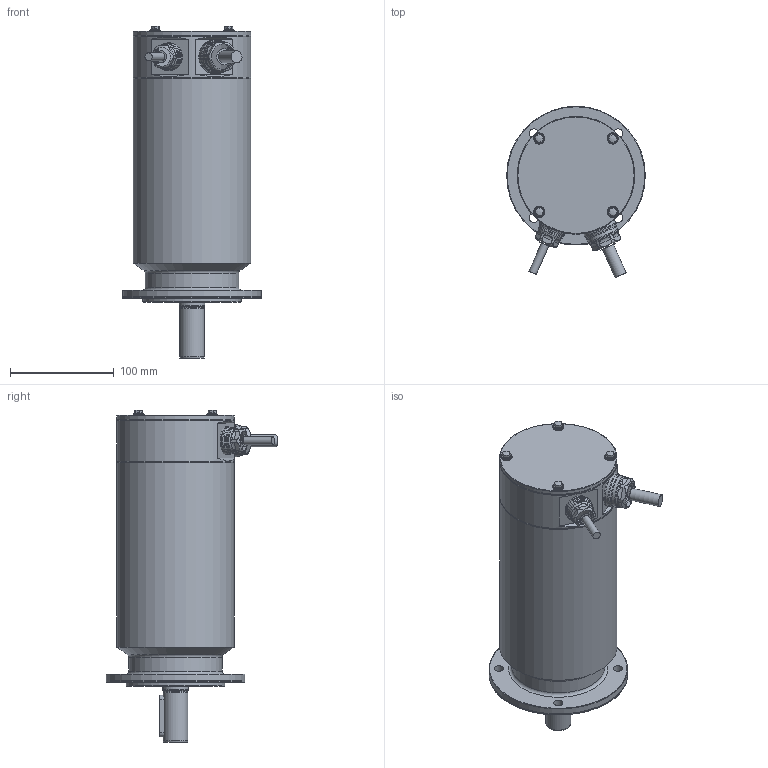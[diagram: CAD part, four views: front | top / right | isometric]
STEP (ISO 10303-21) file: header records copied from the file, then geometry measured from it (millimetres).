
FILE_DESCRIPTION(/* description */ (''),/* implementation_level */ '2;1');
FILE_NAME(/* name */ 'C:\Users\MartinMue\Desktop\_Temp\AM8753-xx01-xxxx.stp',/* time_stamp */ '2020-03-04T14:06:31+01:00',/* author */ ('MartinMue'),/* organization */ ('FERTIG Motors'),/* preprocessor_version */ 'ST-DEVELOPER v18',/* originating_system */ 'Autodesk Inventor 2020',/* authorisation */ '');
FILE_SCHEMA (('AUTOMOTIVE_DESIGN { 1 0 10303 214 3 1 1 }'));
Length unit declared in the file: millimetre
Products named in the file (3): DM100x_VM; DM100x_VM_1; DIN 6885-A8x7x40
Assembly tree (2 placements, depth 2):
  DM100x_VM
    DM100x_VM_1
    DIN 6885-A8x7x40
Bounding box: 134 x 166.01 x 320.76 mm (x, y, z)
Volume: 2627486.1 mm3; surface area: 137091.3 mm2
Topology: 2 solids, 2 shells, 247 faces, 712 edges, 489 vertices
Faces by surface type: cylinder 107, plane 86, torus 30, cone 20, sphere 4
Full cylindrical faces by diameter (mm): 6.917 x1, 7.6 x1, 8.4 x1, 9 x4, 10.7 x4, 10.9 x4, 11.6 x1, 23.4 x1, 24 x1, 25 x2, 27 x2, 31 x1, 32.9 x1, 32.95 x1, 90 x1, 95 x1, 99.2 x1, 113.4 x3, 134 x2
Entity records: 9961 total; most frequent: CARTESIAN_POINT 2893, DIRECTION 1439, ORIENTED_EDGE 1422, EDGE_CURVE 711, AXIS2_PLACEMENT_3D 619, VERTEX_POINT 489, CIRCLE 362, EDGE_LOOP 276
